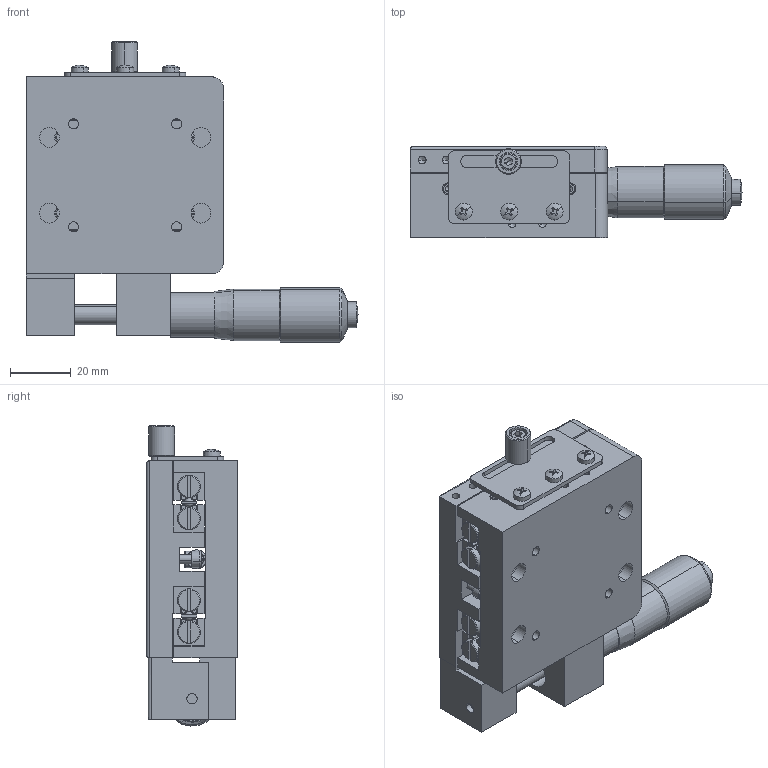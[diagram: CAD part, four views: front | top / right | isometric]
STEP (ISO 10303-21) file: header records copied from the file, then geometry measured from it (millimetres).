
FILE_DESCRIPTION (( 'STEP AP203' ), '1' );
FILE_NAME ('7STM01225Æ½ÒÆÌ¨.STEP', '2020-10-21T01:12:19', ( '' ), ( '' ), 'SwSTEP 2.0', 'SolidWorks 2018', '' );
FILE_SCHEMA (( 'CONFIG_CONTROL_DESIGN' ));
Length unit declared in the file: millimetre
Products named in the file (1): 7STM01225す痄怢
Bounding box: 109.53 x 30 x 98.99 mm (x, y, z)
Volume: 134173.6 mm3; surface area: 75684.6 mm2
Topology: 60 solids, 60 shells, 1365 faces, 3251 edges, 1994 vertices
Faces by surface type: plane 579, cylinder 476, cone 244, torus 44, sphere 16, bspline 6
Entity records: 45874 total; most frequent: CARTESIAN_POINT 13771, DIRECTION 7145, ORIENTED_EDGE 6238, EDGE_CURVE 3119, AXIS2_PLACEMENT_3D 2780, VERTEX_POINT 1982, EDGE_LOOP 1623, VECTOR 1585
